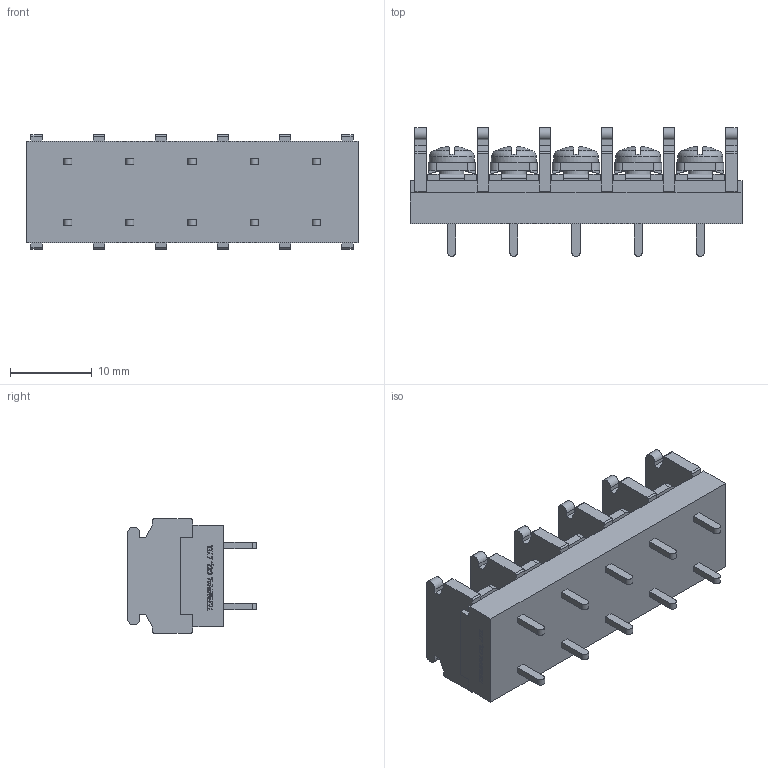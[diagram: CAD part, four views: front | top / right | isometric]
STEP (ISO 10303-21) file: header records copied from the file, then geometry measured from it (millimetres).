
FILE_DESCRIPTION(/* description */ ('Alibre Inc.'),/* implementation_level */ '2;1');
FILE_NAME(/* name */ 'export0',/* time_stamp */ '2015-10-23T20:16:56+09:00',/* author */ (''),/* organization */ (''),/* preprocessor_version */ 'ST-DEVELOPER v14',/* originating_system */ 'Alibre',/* authorisation */ '');
FILE_SCHEMA (('CONFIG_CONTROL_DESIGN'));
Length unit declared in the file: centimetre
Products named in the file (1): ID_1
Bounding box: 40.72 x 15.8 x 14 mm (x, y, z)
Volume: 3883.8 mm3; surface area: 3822 mm2
Topology: 1 solids, 1 shells, 987 faces, 2686 edges, 1766 vertices
Faces by surface type: plane 757, bspline 104, cylinder 86, cone 20, torus 10, sphere 10
Full cylindrical faces by diameter (mm): 3 x5, 5.5 x5
Entity records: 29673 total; most frequent: CARTESIAN_POINT 6518, ORIENTED_EDGE 5312, DIRECTION 3588, EDGE_CURVE 2656, VECTOR 1976, LINE 1976, VERTEX_POINT 1756, AXIS2_PLACEMENT_3D 1158
